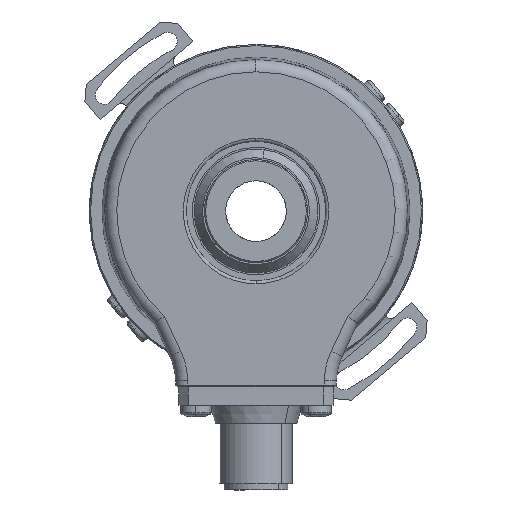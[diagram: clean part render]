
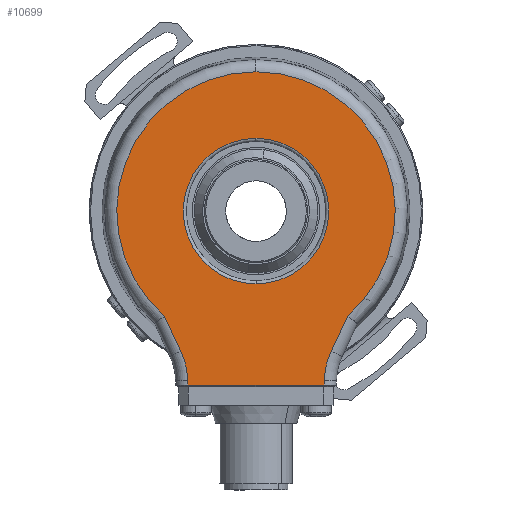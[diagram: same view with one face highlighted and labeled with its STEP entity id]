
A CAD part, left-side view. The second image highlights one B-rep face of the part: STEP entity #10699.
In plain terms, the highlighted planar face has unit normal (-1, 0, 0).
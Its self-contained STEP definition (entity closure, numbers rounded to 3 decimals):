
#3995 = CARTESIAN_POINT ( 'NONE',  ( -21., 0., 12. ) ) ;
#3996 = DIRECTION ( 'NONE',  ( 0., 0., 1. ) ) ;
#3997 = DIRECTION ( 'NONE',  ( 1., 0., 0. ) ) ;
#3998 = CARTESIAN_POINT ( 'NONE',  ( -21., 0., 0. ) ) ;
#3999 = AXIS2_PLACEMENT_3D ( 'NONE', #3998, #3997, #3996 ) ;
#4000 = CIRCLE ( 'NONE', #3999, 12. ) ;
#4001 = CARTESIAN_POINT ( 'NONE',  ( -21., 0., -12. ) ) ;
#4205 = DIRECTION ( 'NONE',  ( 0., 0., 1. ) ) ;
#4206 = DIRECTION ( 'NONE',  ( 1., 0., 0. ) ) ;
#4207 = CARTESIAN_POINT ( 'NONE',  ( -21., -23.266, -28.183 ) ) ;
#4208 = AXIS2_PLACEMENT_3D ( 'NONE', #4207, #4206, #4205 ) ;
#4209 = CIRCLE ( 'NONE', #4208, 12. ) ;
#4211 = CARTESIAN_POINT ( 'NONE',  ( -21., -12.39, -23.112 ) ) ;
#4224 = CARTESIAN_POINT ( 'NONE',  ( -21., -11.268, -27.974 ) ) ;
#4390 = DIRECTION ( 'NONE',  ( 0., -0.423, 0.906 ) ) ;
#4391 = VECTOR ( 'NONE', #4390, 1000. ) ;
#4392 = CARTESIAN_POINT ( 'NONE',  ( -21., -14.953, -17.615 ) ) ;
#4395 = LINE ( 'NONE', #4392, #4391 ) ;
#4396 = CARTESIAN_POINT ( 'NONE',  ( -21., -15.091, -17.32 ) ) ;
#4403 = LINE ( 'NONE', #4458, #4457 ) ;
#4456 = DIRECTION ( 'NONE',  ( 0., -0.423, -0.906 ) ) ;
#4457 = VECTOR ( 'NONE', #4456, 1000. ) ;
#4458 = CARTESIAN_POINT ( 'NONE',  ( -21., 12.39, -23.112 ) ) ;
#4465 = DIRECTION ( 'NONE',  ( 0., 0., 1. ) ) ;
#4466 = DIRECTION ( 'NONE',  ( 1., 0., 0. ) ) ;
#4467 = CARTESIAN_POINT ( 'NONE',  ( -21., 23.266, -28.183 ) ) ;
#4468 = AXIS2_PLACEMENT_3D ( 'NONE', #4467, #4466, #4465 ) ;
#4469 = CIRCLE ( 'NONE', #4468, 12. ) ;
#4471 = CARTESIAN_POINT ( 'NONE',  ( -21., 11.268, -27.974 ) ) ;
#4558 = CARTESIAN_POINT ( 'NONE',  ( -21., 15.091, -17.32 ) ) ;
#4559 = CARTESIAN_POINT ( 'NONE',  ( -21., 0., 22.972 ) ) ;
#4560 = DIRECTION ( 'NONE',  ( 0., 0., 1. ) ) ;
#4561 = DIRECTION ( 'NONE',  ( -1., 0., 0. ) ) ;
#4562 = CARTESIAN_POINT ( 'NONE',  ( -21., 0., 0. ) ) ;
#4563 = AXIS2_PLACEMENT_3D ( 'NONE', #4562, #4561, #4560 ) ;
#4568 = CIRCLE ( 'NONE', #4563, 22.972 ) ;
#4572 = CARTESIAN_POINT ( 'NONE',  ( -21., 12.39, -23.112 ) ) ;
#4621 = DIRECTION ( 'NONE',  ( 0., 0., 1. ) ) ;
#4622 = DIRECTION ( 'NONE',  ( -1., 0., 0. ) ) ;
#4623 = CARTESIAN_POINT ( 'NONE',  ( -21., 0., 0. ) ) ;
#4624 = AXIS2_PLACEMENT_3D ( 'NONE', #4623, #4622, #4621 ) ;
#4625 = CIRCLE ( 'NONE', #4624, 22.972 ) ;
#4929 = DIRECTION ( 'NONE',  ( 0., -0.017, -1. ) ) ;
#4930 = VECTOR ( 'NONE', #4929, 1000. ) ;
#4931 = CARTESIAN_POINT ( 'NONE',  ( -21., 11.752, -0.205 ) ) ;
#4932 = LINE ( 'NONE', #4931, #4930 ) ;
#4947 = DIRECTION ( 'NONE',  ( 0., -1., 0. ) ) ;
#4948 = VECTOR ( 'NONE', #4947, 1000. ) ;
#4949 = CARTESIAN_POINT ( 'NONE',  ( -21., -11.25, -28.695 ) ) ;
#4955 = LINE ( 'NONE', #4949, #4948 ) ;
#5205 = FACE_OUTER_BOUND ( 'NONE', #10771, .T. ) ;
#5206 = FACE_BOUND ( 'NONE', #10761, .T. ) ;
#5207 = DIRECTION ( 'NONE',  ( 0., 0., 1. ) ) ;
#5208 = DIRECTION ( 'NONE',  ( 1., 0., 0. ) ) ;
#5209 = CARTESIAN_POINT ( 'NONE',  ( -21., 0., 0. ) ) ;
#5210 = AXIS2_PLACEMENT_3D ( 'NONE', #5209, #5208, #5207 ) ;
#5211 = CIRCLE ( 'NONE', #5210, 12. ) ;
#5213 = DIRECTION ( 'NONE',  ( 0., -0.017, 1. ) ) ;
#5214 = VECTOR ( 'NONE', #5213, 1000. ) ;
#5215 = CARTESIAN_POINT ( 'NONE',  ( -21., -11.752, -0.205 ) ) ;
#5216 = LINE ( 'NONE', #5215, #5214 ) ;
#5242 = DIRECTION ( 'NONE',  ( 0., 0., 1. ) ) ;
#5243 = DIRECTION ( 'NONE',  ( 1., 0., 0. ) ) ;
#5244 = CARTESIAN_POINT ( 'NONE',  ( -21., 0., 0. ) ) ;
#5245 = AXIS2_PLACEMENT_3D ( 'NONE', #5244, #5243, #5242 ) ;
#5246 = PLANE ( 'NONE',  #5245 ) ;
#5289 = CARTESIAN_POINT ( 'NONE',  ( -21., 11.255, -28.695 ) ) ;
#5325 = CARTESIAN_POINT ( 'NONE',  ( -21., -11.255, -28.695 ) ) ;
#10319 = VERTEX_POINT ( 'NONE', #4001 ) ;
#10321 = EDGE_CURVE ( 'NONE', #10322, #10319, #4000, .T. ) ;
#10322 = VERTEX_POINT ( 'NONE', #3995 ) ;
#10390 = VERTEX_POINT ( 'NONE', #4224 ) ;
#10397 = VERTEX_POINT ( 'NONE', #4211 ) ;
#10399 = EDGE_CURVE ( 'NONE', #10390, #10397, #4209, .T. ) ;
#10438 = VERTEX_POINT ( 'NONE', #4396 ) ;
#10440 = EDGE_CURVE ( 'NONE', #10397, #10438, #4395, .T. ) ;
#10447 = EDGE_CURVE ( 'NONE', #10488, #10499, #4403, .T. ) ;
#10457 = VERTEX_POINT ( 'NONE', #4471 ) ;
#10459 = EDGE_CURVE ( 'NONE', #10499, #10457, #4469, .T. ) ;
#10486 = EDGE_CURVE ( 'NONE', #10487, #10488, #4568, .T. ) ;
#10487 = VERTEX_POINT ( 'NONE', #4559 ) ;
#10488 = VERTEX_POINT ( 'NONE', #4558 ) ;
#10499 = VERTEX_POINT ( 'NONE', #4572 ) ;
#10502 = EDGE_CURVE ( 'NONE', #10438, #10487, #4625, .T. ) ;
#10613 = EDGE_CURVE ( 'NONE', #10457, #10708, #4932, .T. ) ;
#10625 = EDGE_CURVE ( 'NONE', #10708, #10715, #4955, .T. ) ;
#10693 = ORIENTED_EDGE ( 'NONE', *, *, #10625, .T. ) ;
#10694 = ORIENTED_EDGE ( 'NONE', *, *, #10695, .T. ) ;
#10695 = EDGE_CURVE ( 'NONE', #10715, #10390, #5216, .T. ) ;
#10696 = ORIENTED_EDGE ( 'NONE', *, *, #10399, .T. ) ;
#10697 = ORIENTED_EDGE ( 'NONE', *, *, #10440, .T. ) ;
#10698 = EDGE_CURVE ( 'NONE', #10319, #10322, #5211, .T. ) ;
#10699 = ADVANCED_FACE ( 'NONE', ( #5206, #5205 ), #5246, .F. ) ;
#10700 = ORIENTED_EDGE ( 'NONE', *, *, #10321, .T. ) ;
#10701 = ORIENTED_EDGE ( 'NONE', *, *, #10698, .T. ) ;
#10708 = VERTEX_POINT ( 'NONE', #5289 ) ;
#10715 = VERTEX_POINT ( 'NONE', #5325 ) ;
#10761 = EDGE_LOOP ( 'NONE', ( #10700, #10701 ) ) ;
#10771 = EDGE_LOOP ( 'NONE', ( #10772, #10693, #10694, #10696, #10697, #10842, #10843, #10844, #10845 ) ) ;
#10772 = ORIENTED_EDGE ( 'NONE', *, *, #10613, .T. ) ;
#10842 = ORIENTED_EDGE ( 'NONE', *, *, #10502, .T. ) ;
#10843 = ORIENTED_EDGE ( 'NONE', *, *, #10486, .T. ) ;
#10844 = ORIENTED_EDGE ( 'NONE', *, *, #10447, .T. ) ;
#10845 = ORIENTED_EDGE ( 'NONE', *, *, #10459, .T. ) ;
